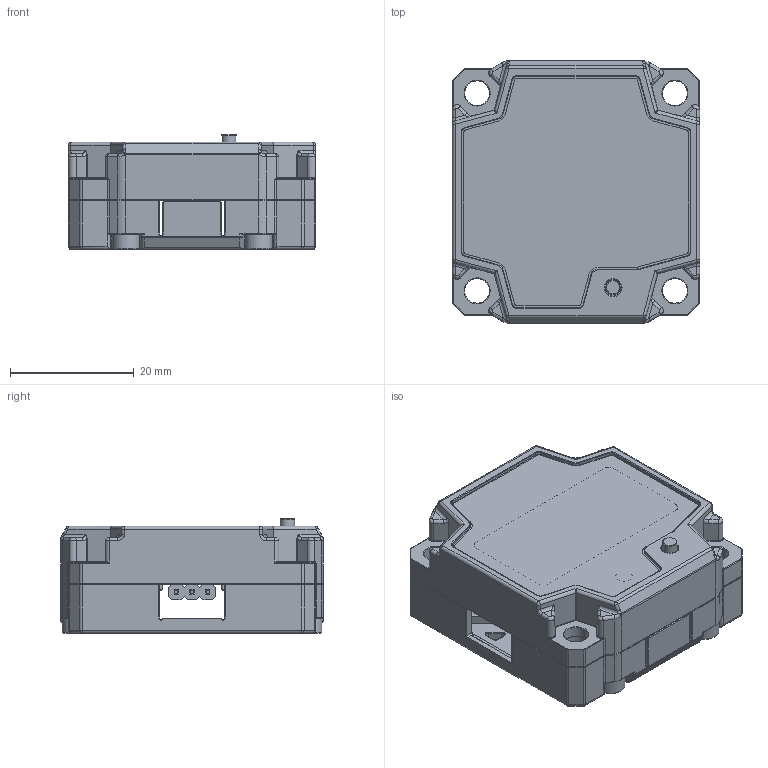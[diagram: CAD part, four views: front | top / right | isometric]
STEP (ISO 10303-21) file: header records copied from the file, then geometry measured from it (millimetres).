
FILE_DESCRIPTION(/* description */ (''),/* implementation_level */ '2;1');
FILE_NAME(/* name */ '3109-0005-0002.step',/* time_stamp */ '2025-05-19T15:43:49-05:00',/* author */ (''),/* organization */ (''),/* preprocessor_version */ 'ST-DEVELOPER v20.1',/* originating_system */ 'Autodesk Translation Framework v14.4.0.0',/* authorisation */ '');
FILE_SCHEMA (('AUTOMOTIVE_DESIGN { 1 0 10303 214 3 1 1 }'));
Products named in the file (14): 3109-0005-0002; 3109-0005-0002-PCB; Board; Packages; SLR0364DBC1BD; C225966 Segment Display v7; 4.5X4.5-TS-9MM; 4.5x4.5 SPST Tactile Switch (9mm Tall) v1; 1X03/90; 3x2.54mm Pin Head Right Angle v4; 3117-0032-0016 (EW); 3109-0005-0002-Top-Case; 3109-0005-0002-Product-Sticker; 2815-0026-0012
Assembly tree (17 placements, depth 5):
  3109-0005-0002
    3109-0005-0002-PCB
      Board
      Packages
        SLR0364DBC1BD
          C225966 Segment Display v7
        4.5X4.5-TS-9MM
          4.5x4.5 SPST Tactile Switch (9mm Tall) v1
        1X03/90  x2
          3x2.54mm Pin Head Right Angle v4
    3117-0032-0016 (EW)
    3109-0005-0002-Top-Case
    3109-0005-0002-Product-Sticker
    2815-0026-0012  x4
Bounding box: 40 x 42.5 x 18.6 mm (x, y, z)
Volume: 12865.5 mm3; surface area: 19017.7 mm2
Topology: 17 solids, 17 shells, 3400 faces, 8256 edges, 4943 vertices
Faces by surface type: cylinder 1276, plane 1025, torus 562, bspline 420, sphere 80, cone 37
Full cylindrical faces by diameter (mm): 0.45 x12, 0.6 x12, 0.75 x8, 0.9 x6, 1 x4, 1.517 x28, 2 x4, 2.45 x2, 2.5 x1, 2.6 x36, 2.7 x1, 4 x8, 4.5 x4
Entity records: 105877 total; most frequent: CARTESIAN_POINT 31351, DIRECTION 15621, ORIENTED_EDGE 15308, EDGE_CURVE 7654, AXIS2_PLACEMENT_3D 5942, VERTEX_POINT 4579, LINE 3737, VECTOR 3737
